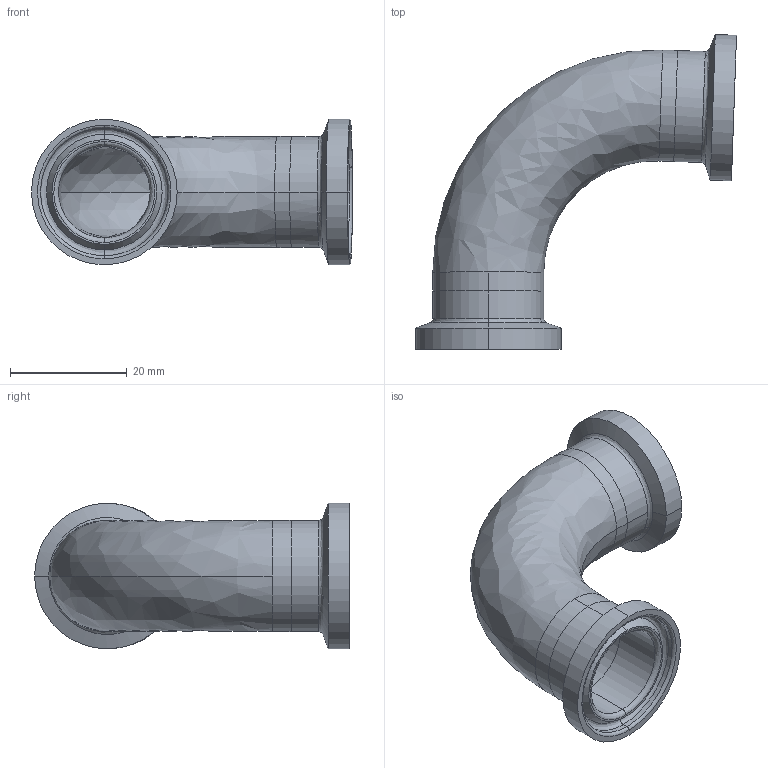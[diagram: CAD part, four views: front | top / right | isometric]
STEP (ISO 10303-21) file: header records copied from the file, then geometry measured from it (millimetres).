
FILE_DESCRIPTION (( 'STEP AP214' ), '1' );
FILE_NAME ('TEG2C926L.75-...STEP', '2016-05-22T11:33:26', ( 'eran' ), ( '' ), 'SwSTEP 2.0', 'SolidWorks 2016', '' );
FILE_SCHEMA (( 'AUTOMOTIVE_DESIGN' ));
Length unit declared in the file: millimetre
Products named in the file (1): TEG2C926L.75-..
Bounding box: 55.09 x 54.02 x 24.99 mm (x, y, z)
Volume: 7636.1 mm3; surface area: 9416.1 mm2
Topology: 3 solids, 3 shells, 60 faces, 136 edges, 84 vertices
Faces by surface type: cylinder 24, bspline 20, plane 8, cone 8
Entity records: 2000 total; most frequent: CARTESIAN_POINT 605, DIRECTION 306, ORIENTED_EDGE 272, AXIS2_PLACEMENT_3D 137, EDGE_CURVE 136, CIRCLE 96, VERTEX_POINT 84, EDGE_LOOP 68
